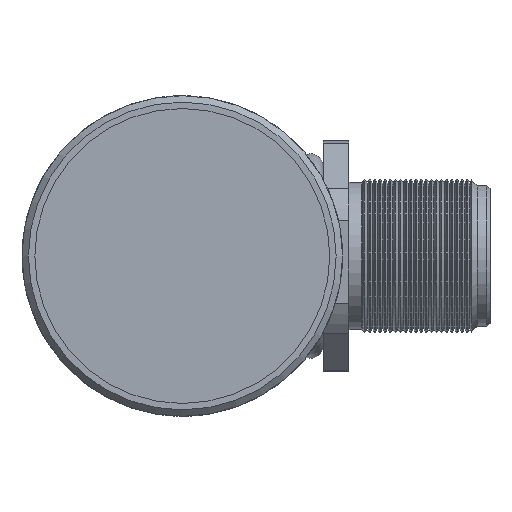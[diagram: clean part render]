
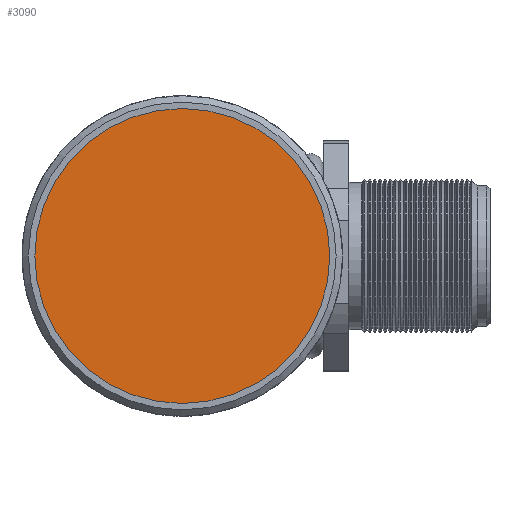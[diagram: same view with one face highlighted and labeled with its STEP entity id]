
A CAD part, left-side view. The second image highlights one B-rep face of the part: STEP entity #3090.
In plain terms, the highlighted planar face has unit normal (-1, 0, 0).
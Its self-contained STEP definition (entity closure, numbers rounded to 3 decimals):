
#527=CIRCLE('',#3335,11.5);
#757=VERTEX_POINT('',#4725);
#1299=EDGE_CURVE('',#757,#757,#527,.T.);
#1759=ORIENTED_EDGE('',*,*,#1299,.T.);
#2428=EDGE_LOOP('',(#1759));
#2762=FACE_BOUND('',#2428,.T.);
#3090=ADVANCED_FACE('',(#2762),#5516,.F.);
#3335=AXIS2_PLACEMENT_3D('',#4724,#3743,#3744);
#3336=AXIS2_PLACEMENT_3D('',#4726,#3745,$);
#3743=DIRECTION('',(-1.,0.,0.));
#3744=DIRECTION('',(0.,0.,-11.5));
#3745=DIRECTION('',(1.,0.,0.));
#4724=CARTESIAN_POINT('',(-38.,0.,0.));
#4725=CARTESIAN_POINT('',(-38.,0.,-11.5));
#4726=CARTESIAN_POINT('',(-38.,0.,0.));
#5516=PLANE('',#3336);
